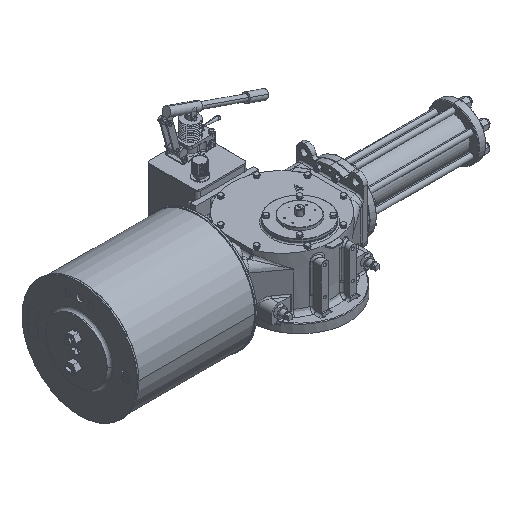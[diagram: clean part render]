
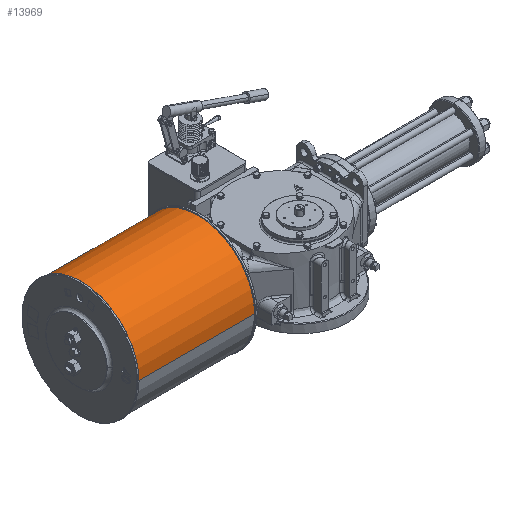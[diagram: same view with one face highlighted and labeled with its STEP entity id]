
A CAD part, isometric view. The second image highlights one B-rep face of the part: STEP entity #13969.
In plain terms, the highlighted cylindrical face has radius 203.2 mm (diameter 406.4 mm), a partial arc.
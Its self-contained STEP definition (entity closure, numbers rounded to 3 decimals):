
#540 = AXIS2_PLACEMENT_3D ( 'NONE', #23246, #38685, #62129 ) ;
#7029 = VERTEX_POINT ( 'NONE', #40454 ) ;
#10184 = CARTESIAN_POINT ( 'NONE',  ( -256.5, 311.2, 82.5 ) ) ;
#10420 = CARTESIAN_POINT ( 'NONE',  ( -256.5, -95.2, 82.5 ) ) ;
#13573 = DIRECTION ( 'NONE',  ( 0., -1., 0. ) ) ;
#13969 = ADVANCED_FACE ( 'NONE', ( #61060 ), #92493, .T. ) ;
#18764 = EDGE_CURVE ( 'NONE', #74759, #19843, #79752, .T. ) ;
#19843 = VERTEX_POINT ( 'NONE', #55958 ) ;
#22545 = CARTESIAN_POINT ( 'NONE',  ( -671.5, 108., 82.5 ) ) ;
#22596 = CIRCLE ( 'NONE', #73558, 203.2 ) ;
#22968 = ORIENTED_EDGE ( 'NONE', *, *, #54750, .T. ) ;
#23246 = CARTESIAN_POINT ( 'NONE',  ( -256.5, 108., 82.5 ) ) ;
#25161 = DIRECTION ( 'NONE',  ( -1., 0., 0. ) ) ;
#26425 = ORIENTED_EDGE ( 'NONE', *, *, #73349, .T. ) ;
#28563 = EDGE_CURVE ( 'NONE', #31200, #19843, #22596, .T. ) ;
#31200 = VERTEX_POINT ( 'NONE', #42437 ) ;
#38685 = DIRECTION ( 'NONE',  ( -1., 0., 0. ) ) ;
#38889 = AXIS2_PLACEMENT_3D ( 'NONE', #46056, #68028, #98559 ) ;
#40454 = CARTESIAN_POINT ( 'NONE',  ( -256.5, 311.2, 82.5 ) ) ;
#42437 = CARTESIAN_POINT ( 'NONE',  ( -671.5, 311.2, 82.5 ) ) ;
#43817 = EDGE_LOOP ( 'NONE', ( #26425, #22968, #98421, #60192 ) ) ;
#46056 = CARTESIAN_POINT ( 'NONE',  ( -256.5, 108., 82.5 ) ) ;
#54750 = EDGE_CURVE ( 'NONE', #7029, #31200, #86535, .T. ) ;
#55958 = CARTESIAN_POINT ( 'NONE',  ( -671.5, -95.2, 82.5 ) ) ;
#60192 = ORIENTED_EDGE ( 'NONE', *, *, #18764, .F. ) ;
#61060 = FACE_OUTER_BOUND ( 'NONE', #43817, .T. ) ;
#62129 = DIRECTION ( 'NONE',  ( 0., -1., 0. ) ) ;
#65601 = CARTESIAN_POINT ( 'NONE',  ( -256.5, -95.2, 82.5 ) ) ;
#68028 = DIRECTION ( 'NONE',  ( -1., 0., 0. ) ) ;
#73349 = EDGE_CURVE ( 'NONE', #74759, #7029, #83445, .T. ) ;
#73558 = AXIS2_PLACEMENT_3D ( 'NONE', #22545, #82429, #13573 ) ;
#74759 = VERTEX_POINT ( 'NONE', #65601 ) ;
#79752 = LINE ( 'NONE', #10420, #88855 ) ;
#82429 = DIRECTION ( 'NONE',  ( 1., 0., 0. ) ) ;
#83445 = CIRCLE ( 'NONE', #540, 203.2 ) ;
#86535 = LINE ( 'NONE', #10184, #90797 ) ;
#86779 = DIRECTION ( 'NONE',  ( -1., 0., 0. ) ) ;
#88855 = VECTOR ( 'NONE', #86779, 1000. ) ;
#90797 = VECTOR ( 'NONE', #25161, 1000. ) ;
#92493 = CYLINDRICAL_SURFACE ( 'NONE', #38889, 203.2 ) ;
#98421 = ORIENTED_EDGE ( 'NONE', *, *, #28563, .T. ) ;
#98559 = DIRECTION ( 'NONE',  ( 0., -1., 0. ) ) ;
